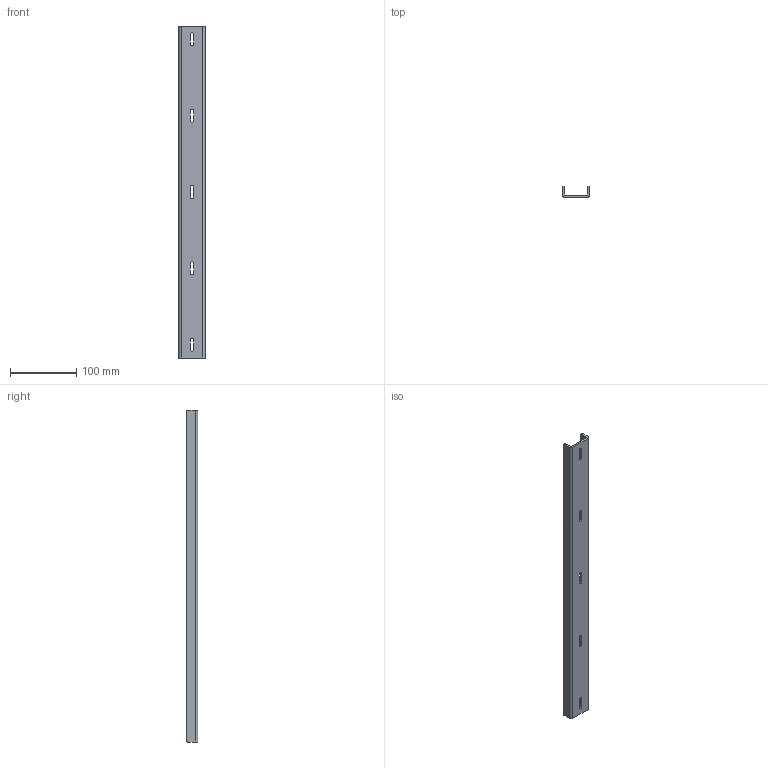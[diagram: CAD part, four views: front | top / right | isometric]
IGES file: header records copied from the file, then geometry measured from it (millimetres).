
Start section: SolidWorks IGES file using analytic representation for surfaces
Bounding box: 40 x 17 x 500 mm (x, y, z)
Surface area: 69490 mm2 (no closed solid volume)
Topology: 0 solids, 0 shells, 90 faces, 1034 edges, 1034 vertices
Faces by surface type: bspline 66, revolution 24
